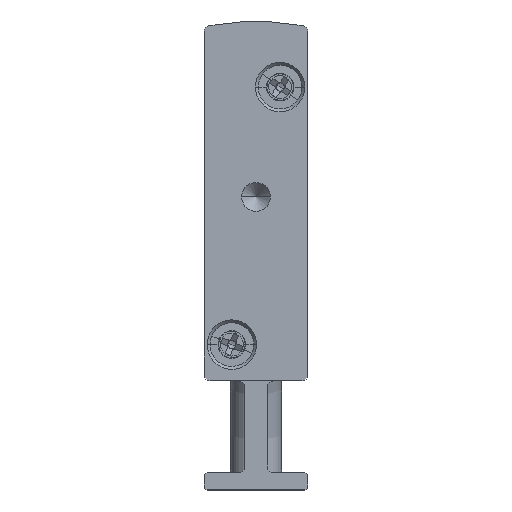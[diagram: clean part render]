
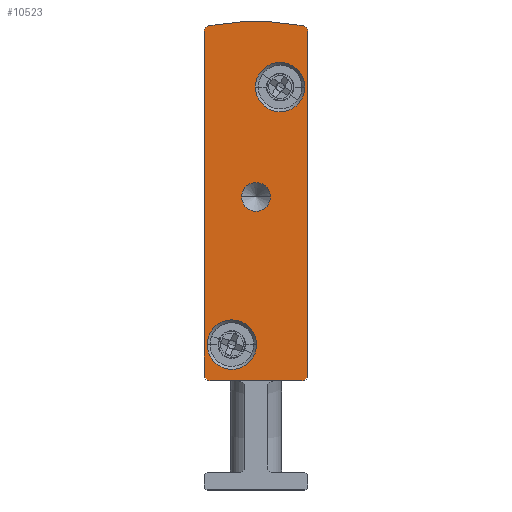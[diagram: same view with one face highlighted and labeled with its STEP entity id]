
A CAD part, front view. The second image highlights one B-rep face of the part: STEP entity #10523.
In plain terms, the highlighted planar face has unit normal (0, -1, 0).
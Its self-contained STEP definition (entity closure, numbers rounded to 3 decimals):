
#93 = CARTESIAN_POINT ( 'NONE',  ( 8.5, -2.5, 10. ) ) ;
#239 = EDGE_CURVE ( 'NONE', #3247, #9670, #5544, .T. ) ;
#478 = DIRECTION ( 'NONE',  ( 0., 1., 0. ) ) ;
#525 = AXIS2_PLACEMENT_3D ( 'NONE', #9278, #16676, #7679 ) ;
#682 = DIRECTION ( 'NONE',  ( 0., 1., 0. ) ) ;
#849 = CARTESIAN_POINT ( 'NONE',  ( 5.75, -2.5, 25.5 ) ) ;
#1014 = CARTESIAN_POINT ( 'NONE',  ( 0.408, -2.5, 40.393 ) ) ;
#1121 = ORIENTED_EDGE ( 'NONE', *, *, #2045, .T. ) ;
#1398 = CARTESIAN_POINT ( 'NONE',  ( 9., -2.5, 10. ) ) ;
#1774 = DIRECTION ( 'NONE',  ( 0., 1., 0. ) ) ;
#1974 = DIRECTION ( 'NONE',  ( -1., 0., 0. ) ) ;
#1986 = VERTEX_POINT ( 'NONE', #16513 ) ;
#2045 = EDGE_CURVE ( 'NONE', #9670, #3247, #9910, .T. ) ;
#2111 = EDGE_CURVE ( 'NONE', #8324, #14594, #6563, .T. ) ;
#2136 = CARTESIAN_POINT ( 'NONE',  ( 0.5, -2.5, 10. ) ) ;
#2155 = DIRECTION ( 'NONE',  ( 0., -1., 0. ) ) ;
#2506 = VECTOR ( 'NONE', #5518, 1000. ) ;
#2593 = CARTESIAN_POINT ( 'NONE',  ( 4.5, -2.5, 25.5 ) ) ;
#2796 = ORIENTED_EDGE ( 'NONE', *, *, #7711, .F. ) ;
#2806 = DIRECTION ( 'NONE',  ( 0., -1., 0. ) ) ;
#2956 = EDGE_CURVE ( 'NONE', #7283, #12587, #3298, .T. ) ;
#3162 = DIRECTION ( 'NONE',  ( -1., 0., 0. ) ) ;
#3169 = AXIS2_PLACEMENT_3D ( 'NONE', #5102, #682, #9603 ) ;
#3232 = CARTESIAN_POINT ( 'NONE',  ( 8.592, -2.5, 40.393 ) ) ;
#3247 = VERTEX_POINT ( 'NONE', #849 ) ;
#3298 = CIRCLE ( 'NONE', #6800, 2.15 ) ;
#3310 = ORIENTED_EDGE ( 'NONE', *, *, #10382, .F. ) ;
#3552 = CIRCLE ( 'NONE', #3169, 23.658 ) ;
#3660 = ORIENTED_EDGE ( 'NONE', *, *, #11061, .F. ) ;
#3665 = CARTESIAN_POINT ( 'NONE',  ( 4.55, -2.5, 12.65 ) ) ;
#3724 = AXIS2_PLACEMENT_3D ( 'NONE', #7416, #2806, #13509 ) ;
#3874 = CARTESIAN_POINT ( 'NONE',  ( 8.75, -2.5, 35.05 ) ) ;
#3958 = AXIS2_PLACEMENT_3D ( 'NONE', #2593, #10301, #8812 ) ;
#4067 = CARTESIAN_POINT ( 'NONE',  ( 9., -2.5, 39.902 ) ) ;
#4132 = AXIS2_PLACEMENT_3D ( 'NONE', #9493, #1774, #15410 ) ;
#4437 = LINE ( 'NONE', #4067, #2506 ) ;
#4516 = LINE ( 'NONE', #18496, #14241 ) ;
#4636 = VECTOR ( 'NONE', #3162, 1000. ) ;
#4683 = DIRECTION ( 'NONE',  ( -1., 0., 0. ) ) ;
#4707 = ORIENTED_EDGE ( 'NONE', *, *, #239, .T. ) ;
#4742 = VERTEX_POINT ( 'NONE', #18533 ) ;
#4935 = CARTESIAN_POINT ( 'NONE',  ( 0., -2.5, 39.902 ) ) ;
#5102 = CARTESIAN_POINT ( 'NONE',  ( 4.5, -2.5, 17.092 ) ) ;
#5151 = AXIS2_PLACEMENT_3D ( 'NONE', #13958, #10975, #4683 ) ;
#5518 = DIRECTION ( 'NONE',  ( 0., 0., -1. ) ) ;
#5544 = CIRCLE ( 'NONE', #3958, 1.25 ) ;
#5886 = CARTESIAN_POINT ( 'NONE',  ( 2.4, -2.5, 12.65 ) ) ;
#5888 = EDGE_LOOP ( 'NONE', ( #18838, #11334 ) ) ;
#5912 = EDGE_CURVE ( 'NONE', #14594, #6667, #4437, .T. ) ;
#5954 = DIRECTION ( 'NONE',  ( 0., -1., 0. ) ) ;
#6072 = DIRECTION ( 'NONE',  ( -1., 0., 0. ) ) ;
#6467 = CARTESIAN_POINT ( 'NONE',  ( 4.45, -2.5, 35.05 ) ) ;
#6500 = EDGE_LOOP ( 'NONE', ( #7420, #8125, #3660, #3310, #15221, #14694, #15845, #2796 ) ) ;
#6563 = CIRCLE ( 'NONE', #4132, 0.5 ) ;
#6665 = AXIS2_PLACEMENT_3D ( 'NONE', #18359, #478, #1974 ) ;
#6667 = VERTEX_POINT ( 'NONE', #1398 ) ;
#6800 = AXIS2_PLACEMENT_3D ( 'NONE', #5886, #5954, #13272 ) ;
#6834 = DIRECTION ( 'NONE',  ( -1., 0., 0. ) ) ;
#7283 = VERTEX_POINT ( 'NONE', #3665 ) ;
#7416 = CARTESIAN_POINT ( 'NONE',  ( 6.6, -2.5, 35.05 ) ) ;
#7420 = ORIENTED_EDGE ( 'NONE', *, *, #13088, .F. ) ;
#7679 = DIRECTION ( 'NONE',  ( 1., 0., 0. ) ) ;
#7711 = EDGE_CURVE ( 'NONE', #17426, #8324, #3552, .T. ) ;
#8125 = ORIENTED_EDGE ( 'NONE', *, *, #14213, .F. ) ;
#8324 = VERTEX_POINT ( 'NONE', #3232 ) ;
#8586 = CARTESIAN_POINT ( 'NONE',  ( 0.5, -2.5, 39.902 ) ) ;
#8812 = DIRECTION ( 'NONE',  ( -1., 0., 0. ) ) ;
#8945 = CIRCLE ( 'NONE', #13724, 0.5 ) ;
#9278 = CARTESIAN_POINT ( 'NONE',  ( 6.6, -2.5, 35.05 ) ) ;
#9435 = VERTEX_POINT ( 'NONE', #17588 ) ;
#9493 = CARTESIAN_POINT ( 'NONE',  ( 8.5, -2.5, 39.902 ) ) ;
#9600 = EDGE_CURVE ( 'NONE', #12587, #7283, #19118, .T. ) ;
#9603 = DIRECTION ( 'NONE',  ( -1., 0., 0. ) ) ;
#9615 = EDGE_LOOP ( 'NONE', ( #18977, #12401 ) ) ;
#9670 = VERTEX_POINT ( 'NONE', #18879 ) ;
#9910 = CIRCLE ( 'NONE', #5151, 1.25 ) ;
#10301 = DIRECTION ( 'NONE',  ( 0., 1., 0. ) ) ;
#10382 = EDGE_CURVE ( 'NONE', #4742, #9435, #18566, .T. ) ;
#10523 = ADVANCED_FACE ( 'NONE', ( #10788, #15281, #16203, #12225 ), #17061, .F. ) ;
#10788 = FACE_BOUND ( 'NONE', #9615, .T. ) ;
#10975 = DIRECTION ( 'NONE',  ( 0., 1., 0. ) ) ;
#11061 = EDGE_CURVE ( 'NONE', #9435, #1986, #8945, .T. ) ;
#11309 = DIRECTION ( 'NONE',  ( 0., 1., 0. ) ) ;
#11334 = ORIENTED_EDGE ( 'NONE', *, *, #9600, .F. ) ;
#11579 = CARTESIAN_POINT ( 'NONE',  ( 0.25, -2.5, 12.65 ) ) ;
#11605 = CARTESIAN_POINT ( 'NONE',  ( 9., -2.5, 39.902 ) ) ;
#11980 = VERTEX_POINT ( 'NONE', #6467 ) ;
#12157 = AXIS2_PLACEMENT_3D ( 'NONE', #8586, #19156, #19213 ) ;
#12225 = FACE_BOUND ( 'NONE', #17318, .T. ) ;
#12280 = CARTESIAN_POINT ( 'NONE',  ( 0.5, -2.5, 9.5 ) ) ;
#12401 = ORIENTED_EDGE ( 'NONE', *, *, #17662, .F. ) ;
#12587 = VERTEX_POINT ( 'NONE', #11579 ) ;
#12710 = EDGE_CURVE ( 'NONE', #15388, #11980, #19170, .T. ) ;
#13088 = EDGE_CURVE ( 'NONE', #15869, #17426, #17540, .T. ) ;
#13272 = DIRECTION ( 'NONE',  ( 1., 0., 0. ) ) ;
#13509 = DIRECTION ( 'NONE',  ( 1., 0., 0. ) ) ;
#13724 = AXIS2_PLACEMENT_3D ( 'NONE', #2136, #11309, #6834 ) ;
#13958 = CARTESIAN_POINT ( 'NONE',  ( 4.5, -2.5, 25.5 ) ) ;
#14213 = EDGE_CURVE ( 'NONE', #1986, #15869, #4516, .T. ) ;
#14241 = VECTOR ( 'NONE', #15510, 1000. ) ;
#14594 = VERTEX_POINT ( 'NONE', #11605 ) ;
#14694 = ORIENTED_EDGE ( 'NONE', *, *, #5912, .F. ) ;
#15221 = ORIENTED_EDGE ( 'NONE', *, *, #19191, .F. ) ;
#15281 = FACE_BOUND ( 'NONE', #5888, .T. ) ;
#15388 = VERTEX_POINT ( 'NONE', #3874 ) ;
#15410 = DIRECTION ( 'NONE',  ( -1., 0., 0. ) ) ;
#15510 = DIRECTION ( 'NONE',  ( 0., 0., 1. ) ) ;
#15634 = CARTESIAN_POINT ( 'NONE',  ( 2.4, -2.5, 12.65 ) ) ;
#15798 = AXIS2_PLACEMENT_3D ( 'NONE', #15634, #2155, #18631 ) ;
#15845 = ORIENTED_EDGE ( 'NONE', *, *, #2111, .F. ) ;
#15869 = VERTEX_POINT ( 'NONE', #4935 ) ;
#16203 = FACE_OUTER_BOUND ( 'NONE', #6500, .T. ) ;
#16513 = CARTESIAN_POINT ( 'NONE',  ( 0., -2.5, 10. ) ) ;
#16676 = DIRECTION ( 'NONE',  ( 0., -1., 0. ) ) ;
#17061 = PLANE ( 'NONE',  #6665 ) ;
#17318 = EDGE_LOOP ( 'NONE', ( #1121, #4707 ) ) ;
#17426 = VERTEX_POINT ( 'NONE', #1014 ) ;
#17540 = CIRCLE ( 'NONE', #12157, 0.5 ) ;
#17586 = AXIS2_PLACEMENT_3D ( 'NONE', #93, #18036, #6072 ) ;
#17588 = CARTESIAN_POINT ( 'NONE',  ( 0.5, -2.5, 9.5 ) ) ;
#17662 = EDGE_CURVE ( 'NONE', #11980, #15388, #19347, .T. ) ;
#17813 = CIRCLE ( 'NONE', #17586, 0.5 ) ;
#18036 = DIRECTION ( 'NONE',  ( 0., 1., 0. ) ) ;
#18359 = CARTESIAN_POINT ( 'NONE',  ( 0.5, -2.5, 39.902 ) ) ;
#18496 = CARTESIAN_POINT ( 'NONE',  ( 0., -2.5, 39.902 ) ) ;
#18533 = CARTESIAN_POINT ( 'NONE',  ( 8.5, -2.5, 9.5 ) ) ;
#18566 = LINE ( 'NONE', #12280, #4636 ) ;
#18631 = DIRECTION ( 'NONE',  ( 1., 0., 0. ) ) ;
#18838 = ORIENTED_EDGE ( 'NONE', *, *, #2956, .F. ) ;
#18879 = CARTESIAN_POINT ( 'NONE',  ( 3.25, -2.5, 25.5 ) ) ;
#18977 = ORIENTED_EDGE ( 'NONE', *, *, #12710, .F. ) ;
#19118 = CIRCLE ( 'NONE', #15798, 2.15 ) ;
#19156 = DIRECTION ( 'NONE',  ( 0., 1., 0. ) ) ;
#19170 = CIRCLE ( 'NONE', #3724, 2.15 ) ;
#19191 = EDGE_CURVE ( 'NONE', #6667, #4742, #17813, .T. ) ;
#19213 = DIRECTION ( 'NONE',  ( -1., 0., 0. ) ) ;
#19347 = CIRCLE ( 'NONE', #525, 2.15 ) ;
